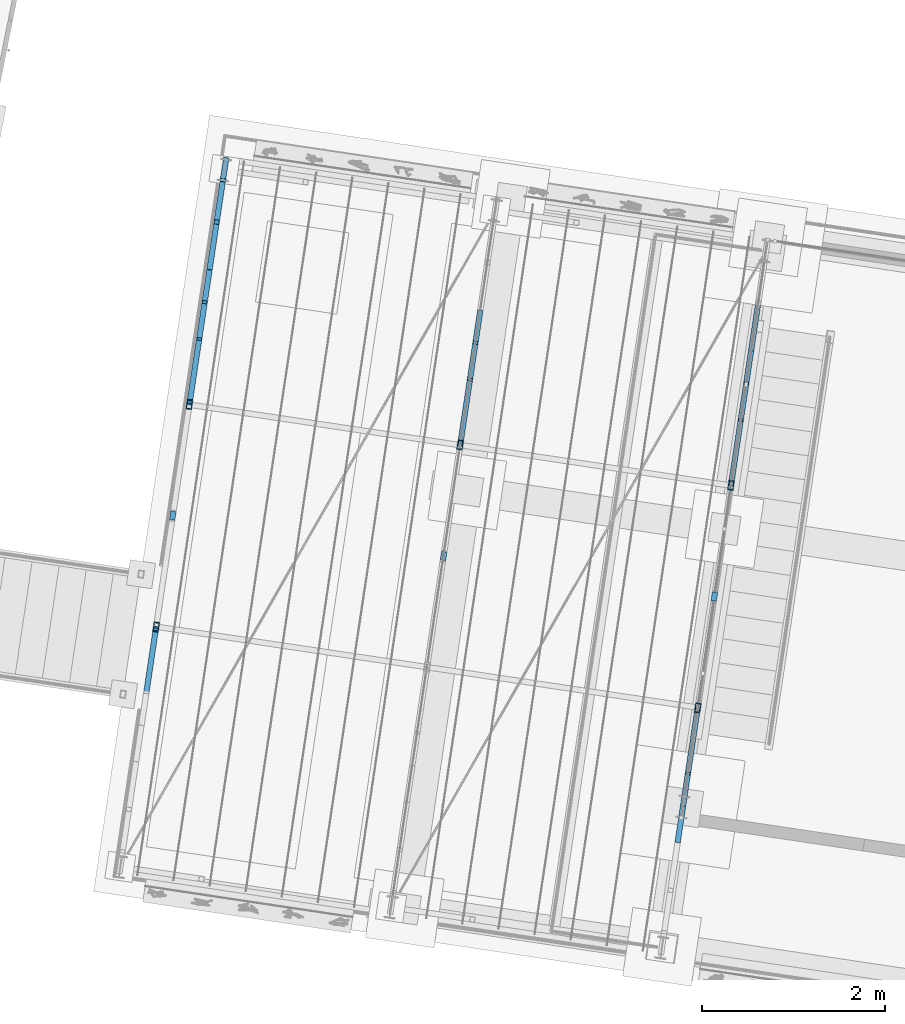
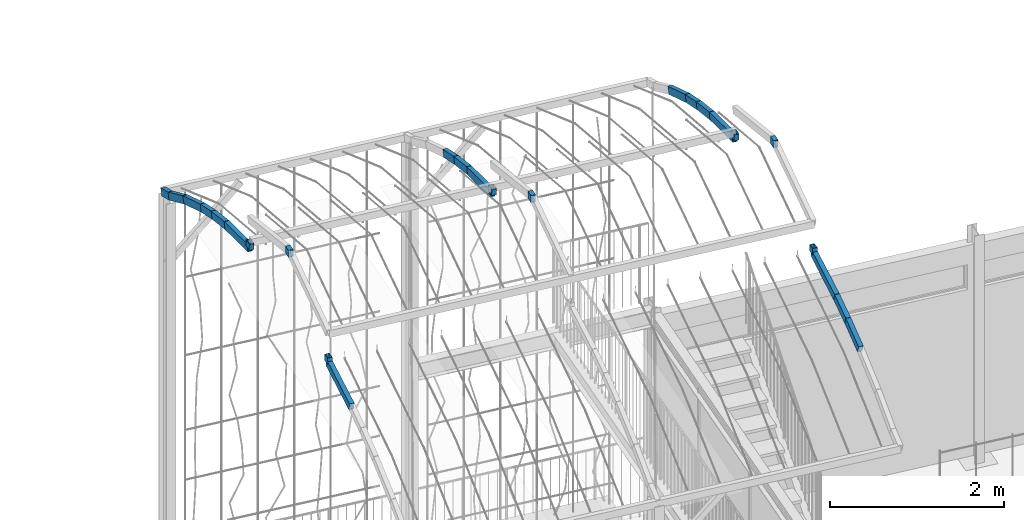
# One storey, part 111 of 142: 25 members, 1 element without a shape of its own.
"""IFC4 building model written with IfcOpenShell, lengths in metres."""

from ifc_helpers import new_model, si_unit, direction, frame, origin_with_axes, place, context, subcontext, project, spatial, hollow_rectangle, extrude, material, material_profile, profile_set, profile_usage, type_object, element, aggregate, save


model = new_model("IFC4")

# Units and contexts
model_context = context("Model", 3, precision=1e-05, world=origin_with_axes(), true_north=direction((0.0, 1.0)))
body_context = subcontext(model_context, "Body", "Model", "MODEL_VIEW")
ifc_project = project(units=[si_unit("LENGTHUNIT", "METRE"), si_unit("AREAUNIT", "SQUARE_METRE"), si_unit("VOLUMEUNIT", "CUBIC_METRE")], contexts=[model_context])

# Site, building, storey
site_placement = place(None, origin_with_axes())
site = spatial("IfcSite", under=ifc_project, at=site_placement, Name="Lares · Rua das Mercês · artigo 4771")
building_placement = place(site_placement, frame((15.0, 9.7, 14.65), z_axis=(0.0, 0.0, 1.0), x_axis=(0.989015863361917, -0.147809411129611, 0.0)))
building = spatial("IfcBuilding", under=site, at=building_placement, Name="Casa Sobreposta")
storey_placement = place(building_placement, origin_with_axes())
storey = spatial("IfcBuildingStorey", under=building, at=storey_placement, Name="00 · Habitação e estacionamento", Elevation=14.65)

# Assembly, members
assembly_placement = place(storey_placement, origin_with_axes())
assembly = element("IfcElementAssembly", 1, at=assembly_placement, inside=storey, Name="Pérgola · prolongamento da estufa 6 m", ObjectType="PERGOLA_GREENHOUSE_EXTENSION", PredefinedType="USERDEFINED")
ifc_material = material(Name="Aço pintado / Stahl lackiert", Category="steel")
ifc_material_profile = material_profile(ifc_material, hollow_rectangle(XDim=0.06, YDim=0.1, WallThickness=0.004))
ifc_profile_set = profile_set([ifc_material_profile], Name="RHS100x60x4")
ifc_profile_usage_1 = profile_usage(ifc_profile_set)
member_type = type_object("IfcMemberType", Name="RHS100x60x4 / steel", PredefinedType="NOTDEFINED", material=ifc_profile_set)
member_1_placement = place(assembly_placement, frame((-6.0, 0.493171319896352, 7.05943931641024), z_axis=(0.0, 0.977995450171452, 0.208626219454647), x_axis=(1.0, 0.0, 0.0)))
member_1 = element("IfcMember", 2, at=member_1_placement, type_object=member_type, material=ifc_profile_usage_1, Name="Pérgola · arco contínuo com a estufa", context=body_context, shape_type="SweptSolid", body=[
    extrude(hollow_rectangle(XDim=0.06, YDim=0.1, WallThickness=0.004), origin_with_axes(), (0.0, 0.0, 1.0), 0.737465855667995),
])
ifc_profile_usage_2 = profile_usage(ifc_profile_set)
member_2_placement = place(assembly_placement, frame((-6.0, 1.21440957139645, 7.21329402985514), z_axis=(0.0, 0.0686229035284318, 0.997642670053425), x_axis=(1.0, 0.0, 0.0)))
member_2 = element("IfcMember", 3, at=member_2_placement, type_object=member_type, material=ifc_profile_usage_2, Name="Pérgola · arco contínuo com a estufa", context=body_context, shape_type="SweptSolid", body=[
    extrude(hollow_rectangle(XDim=0.06, YDim=0.1, WallThickness=0.004), origin_with_axes(), (0.0, 0.0, 1.0), 0.0875893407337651),
])
ifc_profile_usage_3 = profile_usage(ifc_profile_set)
member_3_placement = place(assembly_placement, frame((-6.0, 2.40274082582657, 7.96518238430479), z_axis=(0.0, 1.0, 0.0), x_axis=(1.0, 0.0, 0.0)))
member_3 = element("IfcMember", 4, at=member_3_placement, type_object=member_type, material=ifc_profile_usage_3, Name="Pérgola · arco contínuo com a estufa", context=body_context, shape_type="SweptSolid", body=[
    extrude(hollow_rectangle(XDim=0.06, YDim=0.1, WallThickness=0.004), origin_with_axes(), (0.0, 0.0, 1.0), 0.0949594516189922),
])
ifc_profile_usage_4 = profile_usage(ifc_profile_set)
member_4_placement = place(assembly_placement, frame((-6.0, 3.68002089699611, 7.30067689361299), z_axis=(0.0, 0.0651953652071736, -0.997872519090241), x_axis=(1.0, 0.0, 0.0)))
member_4 = element("IfcMember", 5, at=member_4_placement, type_object=member_type, material=ifc_profile_usage_4, Name="Pérgola · arco contínuo com a estufa", context=body_context, shape_type="SweptSolid", body=[
    extrude(hollow_rectangle(XDim=0.06, YDim=0.1, WallThickness=0.004), origin_with_axes(), (0.0, 0.0, 1.0), 0.0875840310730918),
])
ifc_profile_usage_5 = profile_usage(ifc_profile_set)
member_5_placement = place(assembly_placement, frame((-6.0, 3.68573096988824, 7.21327919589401), z_axis=(0.0, 0.977996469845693, -0.208621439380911), x_axis=(1.0, 0.0, 0.0)))
member_5 = element("IfcMember", 6, at=member_5_placement, type_object=member_type, material=ifc_profile_usage_5, Name="Pérgola · arco contínuo com a estufa", context=body_context, shape_type="SweptSolid", body=[
    extrude(hollow_rectangle(XDim=0.06, YDim=0.1, WallThickness=0.004), origin_with_axes(), (0.0, 0.0, 1.0), 0.737400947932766),
])
ifc_profile_usage_6 = profile_usage(ifc_profile_set)
member_6_placement = place(assembly_placement, frame((-6.0, 4.40690649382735, 7.05944154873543), z_axis=(0.0, 0.958508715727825, -0.285063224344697), x_axis=(1.0, 0.0, 0.0)))
member_6 = element("IfcMember", 7, at=member_6_placement, type_object=member_type, material=ifc_profile_usage_6, Name="Pérgola · arco contínuo com a estufa", context=body_context, shape_type="SweptSolid", body=[
    extrude(hollow_rectangle(XDim=0.06, YDim=0.1, WallThickness=0.004), origin_with_axes(), (0.0, 0.0, 1.0), 0.426177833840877),
])
ifc_profile_usage_7 = profile_usage(ifc_profile_set)
member_7_placement = place(assembly_placement, frame((-6.0, 4.81540166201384, 6.93795392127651), z_axis=(0.0, 0.941396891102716, -0.337300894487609), x_axis=(1.0, 0.0, 0.0)))
member_7 = element("IfcMember", 8, at=member_7_placement, type_object=member_type, material=ifc_profile_usage_7, Name="Pérgola · arco contínuo com a estufa", context=body_context, shape_type="SweptSolid", body=[
    extrude(hollow_rectangle(XDim=0.06, YDim=0.1, WallThickness=0.004), origin_with_axes(), (0.0, 0.0, 1.0), 0.362337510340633),
])
ifc_profile_usage_8 = profile_usage(ifc_profile_set)
member_8_placement = place(assembly_placement, frame((-6.0, 5.15650506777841, 6.8157371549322), z_axis=(0.0, 0.915895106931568, -0.401417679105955), x_axis=(1.0, 0.0, 0.0)))
member_8 = element("IfcMember", 9, at=member_8_placement, type_object=member_type, material=ifc_profile_usage_8, Name="Pérgola · arco contínuo com a estufa", context=body_context, shape_type="SweptSolid", body=[
    extrude(hollow_rectangle(XDim=0.06, YDim=0.1, WallThickness=0.004), origin_with_axes(), (0.0, 0.0, 1.0), 0.596721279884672),
])
ifc_profile_usage_9 = profile_usage(ifc_profile_set)
member_9_placement = place(assembly_placement, frame((-6.0, 5.70303916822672, 6.57620268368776), z_axis=(0.0, 0.878867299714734, -0.477066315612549), x_axis=(1.0, 0.0, 0.0)))
member_9 = element("IfcMember", 10, at=member_9_placement, type_object=member_type, material=ifc_profile_usage_9, Name="Pérgola · arco contínuo com a estufa", context=body_context, shape_type="SweptSolid", body=[
    extrude(hollow_rectangle(XDim=0.06, YDim=0.1, WallThickness=0.004), origin_with_axes(), (0.0, 0.0, 1.0), 0.52859183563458),
])
ifc_profile_usage_10 = profile_usage(ifc_profile_set)
member_10_placement = place(assembly_placement, frame((-6.0, 6.16760124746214, 6.3240293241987), z_axis=(0.0, 0.932880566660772, -0.360185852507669), x_axis=(1.0, 0.0, 0.0)))
member_10 = element("IfcMember", 11, at=member_10_placement, type_object=member_type, material=ifc_profile_usage_10, Name="Pérgola · arco contínuo com a estufa", context=body_context, shape_type="SweptSolid", body=[
    extrude(hollow_rectangle(XDim=0.06, YDim=0.1, WallThickness=0.004), origin_with_axes(), (0.0, 0.0, 1.0), 0.249119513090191),
])
ifc_profile_usage_11 = profile_usage(ifc_profile_set)
member_11_placement = place(assembly_placement, frame((-3.0, 2.40274082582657, 7.96518238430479), z_axis=(0.0, 1.0, 0.0), x_axis=(1.0, 0.0, 0.0)))
member_11 = element("IfcMember", 12, at=member_11_placement, type_object=member_type, material=ifc_profile_usage_11, Name="Pérgola · arco contínuo com a estufa", context=body_context, shape_type="SweptSolid", body=[
    extrude(hollow_rectangle(XDim=0.06, YDim=0.1, WallThickness=0.004), origin_with_axes(), (0.0, 0.0, 1.0), 0.0949594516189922),
])
ifc_profile_usage_12 = profile_usage(ifc_profile_set)
member_12_placement = place(assembly_placement, frame((-3.0, 3.68002089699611, 7.30067689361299), z_axis=(0.0, 0.0651953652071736, -0.997872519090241), x_axis=(1.0, 0.0, 0.0)))
member_12 = element("IfcMember", 13, at=member_12_placement, type_object=member_type, material=ifc_profile_usage_12, Name="Pérgola · arco contínuo com a estufa", context=body_context, shape_type="SweptSolid", body=[
    extrude(hollow_rectangle(XDim=0.06, YDim=0.1, WallThickness=0.004), origin_with_axes(), (0.0, 0.0, 1.0), 0.0875840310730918),
])
ifc_profile_usage_13 = profile_usage(ifc_profile_set)
member_13_placement = place(assembly_placement, frame((-3.0, 3.68573096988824, 7.21327919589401), z_axis=(0.0, 0.977996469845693, -0.208621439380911), x_axis=(1.0, 0.0, 0.0)))
member_13 = element("IfcMember", 14, at=member_13_placement, type_object=member_type, material=ifc_profile_usage_13, Name="Pérgola · arco contínuo com a estufa", context=body_context, shape_type="SweptSolid", body=[
    extrude(hollow_rectangle(XDim=0.06, YDim=0.1, WallThickness=0.004), origin_with_axes(), (0.0, 0.0, 1.0), 0.737400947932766),
])
ifc_profile_usage_14 = profile_usage(ifc_profile_set)
member_14_placement = place(assembly_placement, frame((-3.0, 4.40690649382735, 7.05944154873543), z_axis=(0.0, 0.958508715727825, -0.285063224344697), x_axis=(1.0, 0.0, 0.0)))
member_14 = element("IfcMember", 15, at=member_14_placement, type_object=member_type, material=ifc_profile_usage_14, Name="Pérgola · arco contínuo com a estufa", context=body_context, shape_type="SweptSolid", body=[
    extrude(hollow_rectangle(XDim=0.06, YDim=0.1, WallThickness=0.004), origin_with_axes(), (0.0, 0.0, 1.0), 0.426177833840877),
])
ifc_profile_usage_15 = profile_usage(ifc_profile_set)
member_15_placement = place(assembly_placement, frame((-3.0, 4.81540166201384, 6.93795392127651), z_axis=(0.0, 0.941396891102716, -0.337300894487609), x_axis=(1.0, 0.0, 0.0)))
member_15 = element("IfcMember", 16, at=member_15_placement, type_object=member_type, material=ifc_profile_usage_15, Name="Pérgola · arco contínuo com a estufa", context=body_context, shape_type="SweptSolid", body=[
    extrude(hollow_rectangle(XDim=0.06, YDim=0.1, WallThickness=0.004), origin_with_axes(), (0.0, 0.0, 1.0), 0.362337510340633),
])
ifc_profile_usage_16 = profile_usage(ifc_profile_set)
member_16_placement = place(assembly_placement, frame((0.0, -0.256488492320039, 6.81570306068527), z_axis=(0.0, 0.942820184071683, 0.333301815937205), x_axis=(1.0, 0.0, 0.0)))
member_16 = element("IfcMember", 17, at=member_16_placement, type_object=member_type, material=ifc_profile_usage_16, Name="Pérgola · arco contínuo com a estufa", context=body_context, shape_type="SweptSolid", body=[
    extrude(hollow_rectangle(XDim=0.06, YDim=0.1, WallThickness=0.004), origin_with_axes(), (0.0, 0.0, 1.0), 0.423025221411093),
])
ifc_profile_usage_17 = profile_usage(ifc_profile_set)
member_17_placement = place(assembly_placement, frame((0.0, 0.142348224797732, 6.95669813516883), z_axis=(0.0, 0.959692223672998, 0.281053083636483), x_axis=(1.0, 0.0, 0.0)))
member_17 = element("IfcMember", 18, at=member_17_placement, type_object=member_type, material=ifc_profile_usage_17, Name="Pérgola · arco contínuo com a estufa", context=body_context, shape_type="SweptSolid", body=[
    extrude(hollow_rectangle(XDim=0.06, YDim=0.1, WallThickness=0.004), origin_with_axes(), (0.0, 0.0, 1.0), 0.365557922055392),
])
ifc_profile_usage_18 = profile_usage(ifc_profile_set)
member_18_placement = place(assembly_placement, frame((0.0, 0.493171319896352, 7.05943931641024), z_axis=(0.0, 0.977995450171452, 0.208626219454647), x_axis=(1.0, 0.0, 0.0)))
member_18 = element("IfcMember", 19, at=member_18_placement, type_object=member_type, material=ifc_profile_usage_18, Name="Pérgola · arco contínuo com a estufa", context=body_context, shape_type="SweptSolid", body=[
    extrude(hollow_rectangle(XDim=0.06, YDim=0.1, WallThickness=0.004), origin_with_axes(), (0.0, 0.0, 1.0), 0.737465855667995),
])
ifc_profile_usage_19 = profile_usage(ifc_profile_set)
member_19_placement = place(assembly_placement, frame((0.0, 1.21440957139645, 7.21329402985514), z_axis=(0.0, 0.0686229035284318, 0.997642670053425), x_axis=(1.0, 0.0, 0.0)))
member_19 = element("IfcMember", 20, at=member_19_placement, type_object=member_type, material=ifc_profile_usage_19, Name="Pérgola · arco contínuo com a estufa", context=body_context, shape_type="SweptSolid", body=[
    extrude(hollow_rectangle(XDim=0.06, YDim=0.1, WallThickness=0.004), origin_with_axes(), (0.0, 0.0, 1.0), 0.0875893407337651),
])
ifc_profile_usage_20 = profile_usage(ifc_profile_set)
member_20_placement = place(assembly_placement, frame((0.0, 2.40274082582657, 7.96518238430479), z_axis=(0.0, 1.0, 0.0), x_axis=(1.0, 0.0, 0.0)))
member_20 = element("IfcMember", 21, at=member_20_placement, type_object=member_type, material=ifc_profile_usage_20, Name="Pérgola · arco contínuo com a estufa", context=body_context, shape_type="SweptSolid", body=[
    extrude(hollow_rectangle(XDim=0.06, YDim=0.1, WallThickness=0.004), origin_with_axes(), (0.0, 0.0, 1.0), 0.0949594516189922),
])
ifc_profile_usage_21 = profile_usage(ifc_profile_set)
member_21_placement = place(assembly_placement, frame((0.0, 3.68002089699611, 7.30067689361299), z_axis=(0.0, 0.0651953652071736, -0.997872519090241), x_axis=(1.0, 0.0, 0.0)))
member_21 = element("IfcMember", 22, at=member_21_placement, type_object=member_type, material=ifc_profile_usage_21, Name="Pérgola · arco contínuo com a estufa", context=body_context, shape_type="SweptSolid", body=[
    extrude(hollow_rectangle(XDim=0.06, YDim=0.1, WallThickness=0.004), origin_with_axes(), (0.0, 0.0, 1.0), 0.0875840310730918),
])
ifc_profile_usage_22 = profile_usage(ifc_profile_set)
member_22_placement = place(assembly_placement, frame((0.0, 3.68573096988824, 7.21327919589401), z_axis=(0.0, 0.977996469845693, -0.208621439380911), x_axis=(1.0, 0.0, 0.0)))
member_22 = element("IfcMember", 23, at=member_22_placement, type_object=member_type, material=ifc_profile_usage_22, Name="Pérgola · arco contínuo com a estufa", context=body_context, shape_type="SweptSolid", body=[
    extrude(hollow_rectangle(XDim=0.06, YDim=0.1, WallThickness=0.004), origin_with_axes(), (0.0, 0.0, 1.0), 0.737400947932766),
])
ifc_profile_usage_23 = profile_usage(ifc_profile_set)
member_23_placement = place(assembly_placement, frame((0.0, 4.40690649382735, 7.05944154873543), z_axis=(0.0, 0.958508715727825, -0.285063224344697), x_axis=(1.0, 0.0, 0.0)))
member_23 = element("IfcMember", 24, at=member_23_placement, type_object=member_type, material=ifc_profile_usage_23, Name="Pérgola · arco contínuo com a estufa", context=body_context, shape_type="SweptSolid", body=[
    extrude(hollow_rectangle(XDim=0.06, YDim=0.1, WallThickness=0.004), origin_with_axes(), (0.0, 0.0, 1.0), 0.426177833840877),
])
ifc_profile_usage_24 = profile_usage(ifc_profile_set)
member_24_placement = place(assembly_placement, frame((0.0, 4.81540166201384, 6.93795392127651), z_axis=(0.0, 0.941396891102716, -0.337300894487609), x_axis=(1.0, 0.0, 0.0)))
member_24 = element("IfcMember", 25, at=member_24_placement, type_object=member_type, material=ifc_profile_usage_24, Name="Pérgola · arco contínuo com a estufa", context=body_context, shape_type="SweptSolid", body=[
    extrude(hollow_rectangle(XDim=0.06, YDim=0.1, WallThickness=0.004), origin_with_axes(), (0.0, 0.0, 1.0), 0.362337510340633),
])
ifc_profile_usage_25 = profile_usage(ifc_profile_set)
member_25_placement = place(assembly_placement, frame((0.0, 5.15650506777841, 6.8157371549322), z_axis=(0.0, 0.915895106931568, -0.401417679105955), x_axis=(1.0, 0.0, 0.0)))
member_25 = element("IfcMember", 26, at=member_25_placement, type_object=member_type, material=ifc_profile_usage_25, Name="Pérgola · arco contínuo com a estufa", context=body_context, shape_type="SweptSolid", body=[
    extrude(hollow_rectangle(XDim=0.06, YDim=0.1, WallThickness=0.004), origin_with_axes(), (0.0, 0.0, 1.0), 0.596721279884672),
])
aggregate(assembly, [member_1, member_2, member_3, member_4, member_5, member_6, member_7, member_8, member_9, member_10, member_11, member_12, member_13, member_14, member_15, member_16, member_17, member_18, member_19, member_20, member_21, member_22, member_23, member_24, member_25])

save(model, "model.ifc")
